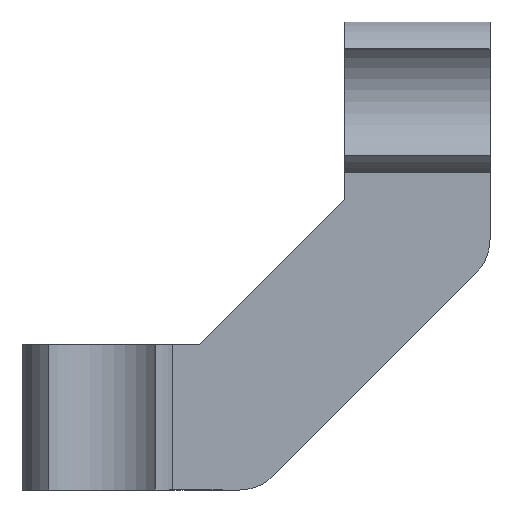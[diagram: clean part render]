
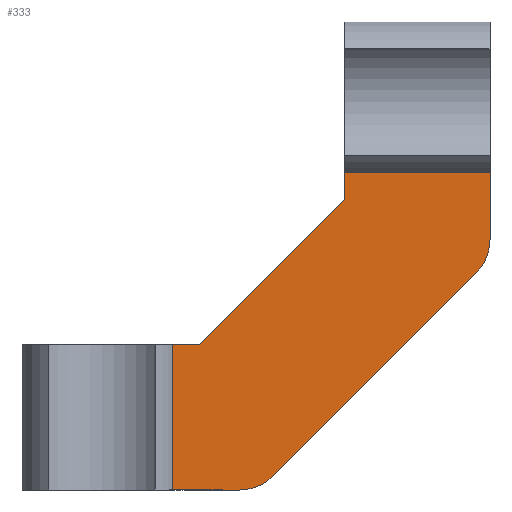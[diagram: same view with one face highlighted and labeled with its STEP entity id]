
A CAD part, front view. The second image highlights one B-rep face of the part: STEP entity #333.
In plain terms, the highlighted planar face has unit normal (0, -1, 0).
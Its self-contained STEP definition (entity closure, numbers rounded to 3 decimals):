
#3 = ORIENTED_EDGE ( 'NONE', *, *, #917, .F. ) ;
#13 = VERTEX_POINT ( 'NONE', #848 ) ;
#16 = EDGE_CURVE ( 'NONE', #674, #776, #782, .T. ) ;
#17 = DIRECTION ( 'NONE',  ( 0., 0., 1. ) ) ;
#18 = CARTESIAN_POINT ( 'NONE',  ( 0., -8.75, -80. ) ) ;
#41 = EDGE_CURVE ( 'NONE', #418, #551, #853, .T. ) ;
#55 = DIRECTION ( 'NONE',  ( 0., 0., -1. ) ) ;
#71 = ORIENTED_EDGE ( 'NONE', *, *, #191, .F. ) ;
#74 = VERTEX_POINT ( 'NONE', #1026 ) ;
#99 = CARTESIAN_POINT ( 'NONE',  ( 50., -8.75, -20. ) ) ;
#121 = CARTESIAN_POINT ( 'NONE',  ( 50., -8.75, -14.575 ) ) ;
#126 = LINE ( 'NONE', #977, #307 ) ;
#131 = LINE ( 'NONE', #474, #826 ) ;
#139 = ORIENTED_EDGE ( 'NONE', *, *, #207, .F. ) ;
#140 = ORIENTED_EDGE ( 'NONE', *, *, #959, .F. ) ;
#152 = CARTESIAN_POINT ( 'NONE',  ( 14.575, -8.75, -80. ) ) ;
#163 = CARTESIAN_POINT ( 'NONE',  ( 77.071, -8.75, -35.355 ) ) ;
#164 = DIRECTION ( 'NONE',  ( 0., 0., 1. ) ) ;
#179 = DIRECTION ( 'NONE',  ( 0., 0., -1. ) ) ;
#180 = CARTESIAN_POINT ( 'NONE',  ( 14.575, -8.75, -80. ) ) ;
#191 = EDGE_CURVE ( 'NONE', #776, #889, #126, .T. ) ;
#192 = CARTESIAN_POINT ( 'NONE',  ( 20., -8.75, -50. ) ) ;
#193 = CARTESIAN_POINT ( 'NONE',  ( 80., -8.75, -28.284 ) ) ;
#194 = EDGE_CURVE ( 'NONE', #373, #526, #394, .T. ) ;
#207 = EDGE_CURVE ( 'NONE', #551, #13, #131, .T. ) ;
#226 = DIRECTION ( 'NONE',  ( 0.707, 0., 0.707 ) ) ;
#231 = CARTESIAN_POINT ( 'NONE',  ( 20., -8.75, -50. ) ) ;
#244 = ORIENTED_EDGE ( 'NONE', *, *, #815, .F. ) ;
#255 = LINE ( 'NONE', #18, #328 ) ;
#277 = DIRECTION ( 'NONE',  ( 1., 0., 0. ) ) ;
#286 = CARTESIAN_POINT ( 'NONE',  ( 80., -8.75, 0. ) ) ;
#296 = EDGE_CURVE ( 'NONE', #889, #418, #1067, .T. ) ;
#302 = FACE_OUTER_BOUND ( 'NONE', #408, .T. ) ;
#307 = VECTOR ( 'NONE', #902, 1000. ) ;
#323 = VECTOR ( 'NONE', #17, 1000. ) ;
#326 = VERTEX_POINT ( 'NONE', #830 ) ;
#328 = VECTOR ( 'NONE', #599, 1000. ) ;
#330 = LINE ( 'NONE', #767, #597 ) ;
#333 = ADVANCED_FACE ( 'NONE', ( #302 ), #644, .T. ) ;
#358 = ORIENTED_EDGE ( 'NONE', *, *, #41, .F. ) ;
#373 = VERTEX_POINT ( 'NONE', #163 ) ;
#375 = DIRECTION ( 'NONE',  ( 0., -1., 0. ) ) ;
#386 = CARTESIAN_POINT ( 'NONE',  ( 70., -8.75, -28.284 ) ) ;
#393 = ORIENTED_EDGE ( 'NONE', *, *, #194, .T. ) ;
#394 = CIRCLE ( 'NONE', #1060, 10. ) ;
#408 = EDGE_LOOP ( 'NONE', ( #140, #537, #244, #393, #3, #139, #358, #1034, #71, #982 ) ) ;
#418 = VERTEX_POINT ( 'NONE', #99 ) ;
#470 = VECTOR ( 'NONE', #226, 1000. ) ;
#474 = CARTESIAN_POINT ( 'NONE',  ( 80., -8.75, -14.575 ) ) ;
#502 = DIRECTION ( 'NONE',  ( 0., -1., 0. ) ) ;
#526 = VERTEX_POINT ( 'NONE', #193 ) ;
#537 = ORIENTED_EDGE ( 'NONE', *, *, #646, .T. ) ;
#551 = VERTEX_POINT ( 'NONE', #121 ) ;
#562 = CARTESIAN_POINT ( 'NONE',  ( 0., -8.75, 0. ) ) ;
#597 = VECTOR ( 'NONE', #690, 1000. ) ;
#599 = DIRECTION ( 'NONE',  ( -1., 0., 0. ) ) ;
#610 = DIRECTION ( 'NONE',  ( 0., 0., -1. ) ) ;
#634 = CIRCLE ( 'NONE', #775, 10. ) ;
#644 = PLANE ( 'NONE',  #647 ) ;
#646 = EDGE_CURVE ( 'NONE', #326, #74, #634, .T. ) ;
#647 = AXIS2_PLACEMENT_3D ( 'NONE', #562, #502, #179 ) ;
#674 = VERTEX_POINT ( 'NONE', #152 ) ;
#690 = DIRECTION ( 'NONE',  ( -0.707, 0., -0.707 ) ) ;
#710 = LINE ( 'NONE', #286, #867 ) ;
#718 = DIRECTION ( 'NONE',  ( 0., 0., -1. ) ) ;
#752 = VECTOR ( 'NONE', #164, 1000. ) ;
#767 = CARTESIAN_POINT ( 'NONE',  ( 80., -8.75, -32.426 ) ) ;
#775 = AXIS2_PLACEMENT_3D ( 'NONE', #911, #822, #55 ) ;
#776 = VERTEX_POINT ( 'NONE', #1004 ) ;
#782 = LINE ( 'NONE', #180, #752 ) ;
#815 = EDGE_CURVE ( 'NONE', #373, #74, #330, .T. ) ;
#822 = DIRECTION ( 'NONE',  ( 0., -1., 0. ) ) ;
#826 = VECTOR ( 'NONE', #277, 1000. ) ;
#830 = CARTESIAN_POINT ( 'NONE',  ( 28.284, -8.75, -80. ) ) ;
#848 = CARTESIAN_POINT ( 'NONE',  ( 80., -8.75, -14.575 ) ) ;
#853 = LINE ( 'NONE', #1018, #323 ) ;
#867 = VECTOR ( 'NONE', #610, 1000. ) ;
#889 = VERTEX_POINT ( 'NONE', #192 ) ;
#902 = DIRECTION ( 'NONE',  ( 1., 0., 0. ) ) ;
#911 = CARTESIAN_POINT ( 'NONE',  ( 28.284, -8.75, -70. ) ) ;
#917 = EDGE_CURVE ( 'NONE', #13, #526, #710, .T. ) ;
#959 = EDGE_CURVE ( 'NONE', #326, #674, #255, .T. ) ;
#977 = CARTESIAN_POINT ( 'NONE',  ( 20., -8.75, -50. ) ) ;
#982 = ORIENTED_EDGE ( 'NONE', *, *, #16, .F. ) ;
#1004 = CARTESIAN_POINT ( 'NONE',  ( 14.575, -8.75, -50. ) ) ;
#1018 = CARTESIAN_POINT ( 'NONE',  ( 50., -8.75, -20. ) ) ;
#1026 = CARTESIAN_POINT ( 'NONE',  ( 35.355, -8.75, -77.071 ) ) ;
#1034 = ORIENTED_EDGE ( 'NONE', *, *, #296, .F. ) ;
#1060 = AXIS2_PLACEMENT_3D ( 'NONE', #386, #375, #718 ) ;
#1067 = LINE ( 'NONE', #231, #470 ) ;
